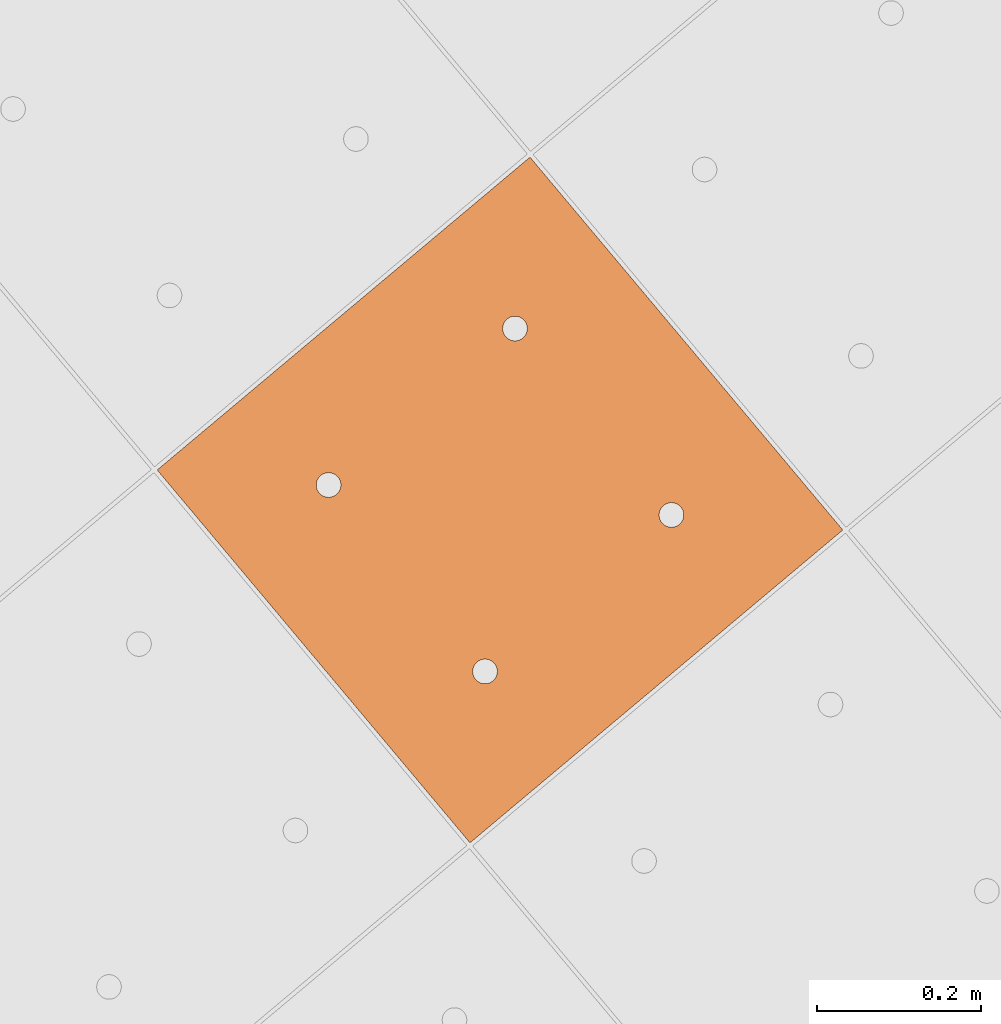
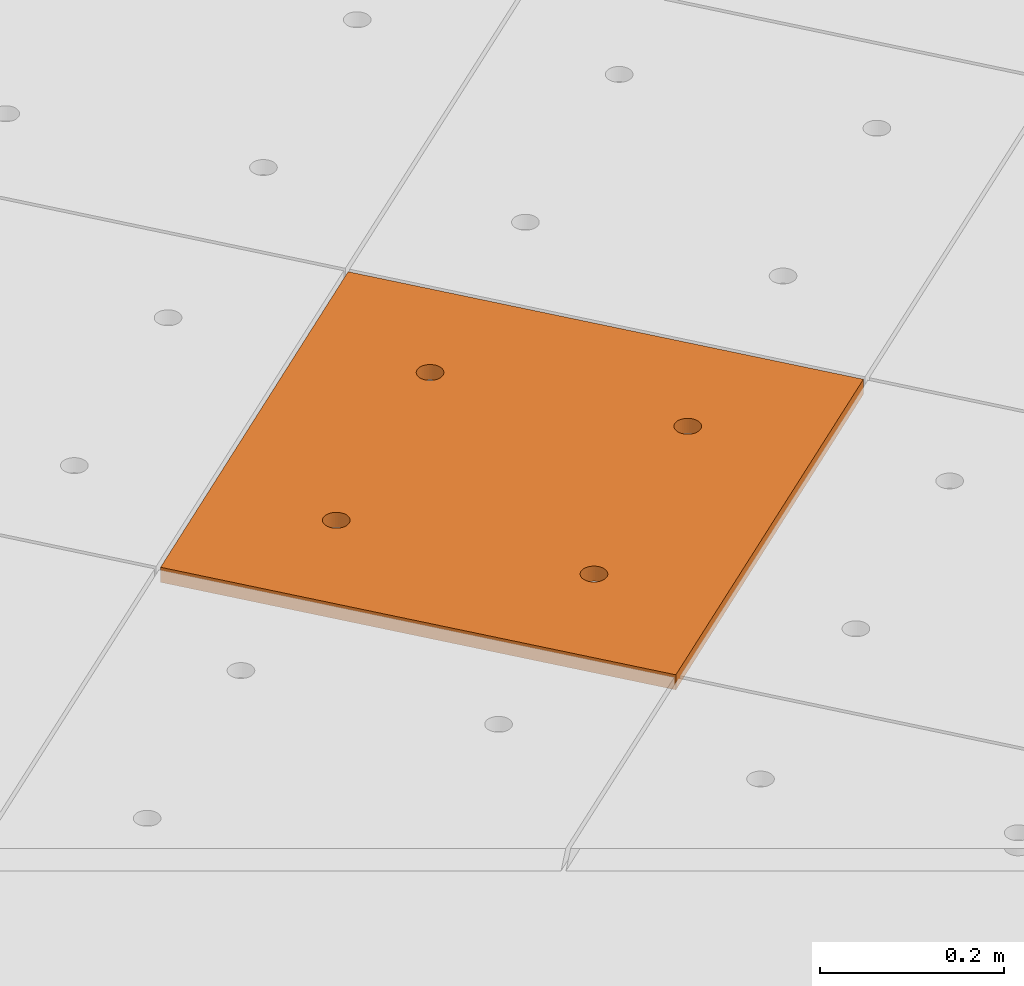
# One storey, part 141 of 338: 1 proxy, 1 element without a shape of its own.
"""IFC2X3 building model written with IfcOpenShell, lengths in millimetres."""

from ifc_helpers import new_model, entity, si_unit, converted_unit, derived_unit, money_unit, direction, frame, origin_with_axes, place, context, subcontext, project, spatial, faceted_brep, source, transform, mapped, material, type_object, type_shapes, element, aggregate, save


model = new_model("IFC2X3")

# Units and contexts
model_context = context("Model", 3, precision=0.01, world=origin_with_axes(), true_north=direction((0.0, 1.0)))
plan_context = context("Plan", 3, precision=0.01, world=origin_with_axes(), true_north=direction((0.0, 1.0)))
body_context = subcontext(model_context, "Body", "Model", "MODEL_VIEW")
ifc_project = project(units=[si_unit("LENGTHUNIT", "METRE", prefix="MILLI"), si_unit("AREAUNIT", "SQUARE_METRE"), si_unit("VOLUMEUNIT", "CUBIC_METRE"), converted_unit("PLANEANGLEUNIT", "DEGREE", entity("IfcPlaneAngleMeasure", 0.0174532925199), si_unit("PLANEANGLEUNIT", "RADIAN"), dimensions=[0, 0, 0, 0, 0, 0, 0]), money_unit("EUR"), converted_unit("TIMEUNIT", "Year", entity("IfcTimeMeasure", 31556926.0), si_unit("TIMEUNIT", "SECOND"), dimensions=[0, 0, 1, 0, 0, 0, 0]), si_unit("MASSUNIT", "GRAM", prefix="KILO"), si_unit("THERMODYNAMICTEMPERATUREUNIT", "DEGREE_CELSIUS"), si_unit("LUMINOUSINTENSITYUNIT", "LUMEN"), si_unit("ENERGYUNIT", "JOULE", prefix="MEGA"), derived_unit("THERMALCONDUCTANCEUNIT", [(si_unit("POWERUNIT", "WATT"), 1), (si_unit("LENGTHUNIT", "METRE"), -1), (si_unit("THERMODYNAMICTEMPERATUREUNIT", "KELVIN"), -1)]), derived_unit("SPECIFICHEATCAPACITYUNIT", [(si_unit("ENERGYUNIT", "JOULE"), 1), (si_unit("MASSUNIT", "GRAM", prefix="KILO"), -1), (si_unit("THERMODYNAMICTEMPERATUREUNIT", "KELVIN"), -1)]), derived_unit("MASSDENSITYUNIT", [(si_unit("MASSUNIT", "GRAM", prefix="KILO"), 1), (si_unit("VOLUMEUNIT", "CUBIC_METRE"), -1)])], contexts=[model_context, plan_context])

# Site, building, storey
site_placement = place(None, origin_with_axes())
site = spatial("IfcSite", under=ifc_project, at=site_placement, Name="Fortuinstraat Woensdrecht", CompositionType="ELEMENT")
building_placement = place(site_placement, origin_with_axes())
building = spatial("IfcBuilding", under=site, at=building_placement, Name="IKC Fortuna", CompositionType="ELEMENT")
storey_placement = place(building_placement, origin_with_axes())
storey = spatial("IfcBuildingStorey", under=building, at=storey_placement, Name="00 begane grond", CompositionType="ELEMENT", Elevation=0.0)

# Covering, proxy
covering_type = type_object("IfcCoveringType", Name="Curtain Wall Type", PredefinedType="CEILING")
covering_placement = place(storey_placement, frame((9775.85169731, -1002.28242867, 4660.0), z_axis=(0.0, 0.0, 1.0), x_axis=(1.0, 0.0, 0.0)))
covering = element("IfcCovering", 1, at=covering_placement, inside=storey, type_object=covering_type, Name="45_Plafondafwerking_P01", PredefinedType="CEILING")
ifc_material = material(Name="Gipsplaat")
building_element_proxy_type = type_object("IfcBuildingElementProxyType", Name="Main Panel 600 x 600 x 20", PredefinedType="NOTDEFINED")
shared_shape = source(origin_with_axes(), body_context, "Body", "Brep", [
    faceted_brep([(2.49999999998, 2.49999999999, -10.0), (300.0, 2.49999999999, -10.0), (300.0, 2.49999999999, 10.0), (2.49999999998, 2.49999999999, 10.0), (2.49999999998, 300.0, -10.0), (2.49999999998, 597.5, -10.0), (300.0, 597.5, -10.0), (597.5, 597.5, -10.0), (597.5, 300.0, -10.0), (597.5, 2.49999999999, -10.0), (166.25, 450.06232995, -10.0), (165.79423259, 452.64711538, -10.0), (164.896546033, 455.11348892, -10.0), (163.58421608, 457.38651108, -10.0), (161.897117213, 459.39711721, -10.0), (159.886511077, 461.08421608, -10.0), (157.613488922, 462.39654603, -10.0), (155.147115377, 463.29423259, -10.0), (152.562329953, 463.75, -10.0), (149.937670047, 463.75, -10.0), (147.352884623, 463.29423259, -10.0), (144.886511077, 462.39654603, -10.0), (142.613488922, 461.08421608, -10.0), (140.602882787, 459.39711721, -10.0), (138.91578392, 457.38651108, -10.0), (137.603453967, 455.11348892, -10.0), (136.705767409, 452.64711538, -10.0), (136.25, 450.06232995, -10.0), (136.25, 448.75, -10.0), (136.25, 447.43767005, -10.0), (136.705767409, 444.85288462, -10.0), (137.603453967, 442.38651108, -10.0), (138.91578392, 440.11348892, -10.0), (140.602882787, 438.10288279, -10.0), (142.613488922, 436.41578392, -10.0), (144.886511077, 435.10345397, -10.0), (147.352884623, 434.20576741, -10.0), (149.937670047, 433.75, -10.0), (152.562329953, 433.75, -10.0), (155.147115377, 434.20576741, -10.0), (157.613488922, 435.10345397, -10.0), (159.886511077, 436.41578392, -10.0), (161.897117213, 438.10288279, -10.0), (163.58421608, 440.11348892, -10.0), (164.896546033, 442.38651108, -10.0), (165.79423259, 444.85288462, -10.0), (166.25, 447.43767005, -10.0), (463.75, 450.06232995, -10.0), (463.29423259, 452.64711538, -10.0), (462.396546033, 455.11348892, -10.0), (461.08421608, 457.38651108, -10.0), (459.397117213, 459.39711721, -10.0), (457.386511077, 461.08421608, -10.0), (455.113488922, 462.39654603, -10.0), (452.647115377, 463.29423259, -10.0), (450.062329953, 463.75, -10.0), (447.437670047, 463.75, -10.0), (444.852884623, 463.29423259, -10.0), (442.386511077, 462.39654603, -10.0), (440.113488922, 461.08421608, -10.0), (438.102882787, 459.39711721, -10.0), (436.41578392, 457.38651108, -10.0), (435.103453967, 455.11348892, -10.0), (434.205767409, 452.64711538, -10.0), (433.75, 450.06232995, -10.0), (433.75, 448.75, -10.0), (433.75, 447.43767005, -10.0), (434.205767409, 444.85288462, -10.0), (435.103453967, 442.38651108, -10.0), (436.41578392, 440.11348892, -10.0), (438.102882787, 438.10288279, -10.0), (440.113488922, 436.41578392, -10.0), (442.386511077, 435.10345397, -10.0), (444.852884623, 434.20576741, -10.0), (447.437670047, 433.75, -10.0), (450.062329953, 433.75, -10.0), (452.647115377, 434.20576741, -10.0), (455.113488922, 435.10345397, -10.0), (457.386511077, 436.41578392, -10.0), (459.397117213, 438.10288279, -10.0), (461.08421608, 440.11348892, -10.0), (462.396546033, 442.38651108, -10.0), (463.29423259, 444.85288462, -10.0), (463.75, 447.43767005, -10.0), (463.75, 152.56232995, -10.0), (463.29423259, 155.14711538, -10.0), (462.396546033, 157.61348892, -10.0), (461.08421608, 159.88651108, -10.0), (459.397117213, 161.89711721, -10.0), (457.386511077, 163.58421608, -10.0), (455.113488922, 164.89654603, -10.0), (452.647115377, 165.79423259, -10.0), (450.062329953, 166.25, -10.0), (447.437670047, 166.25, -10.0), (444.852884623, 165.79423259, -10.0), (442.386511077, 164.89654603, -10.0), (440.113488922, 163.58421608, -10.0), (438.102882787, 161.89711721, -10.0), (436.41578392, 159.88651108, -10.0), (435.103453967, 157.61348892, -10.0), (434.205767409, 155.14711538, -10.0), (433.75, 152.56232995, -10.0), (433.75, 151.25, -10.0), (433.75, 149.93767005, -10.0), (434.205767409, 147.35288462, -10.0), (435.103453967, 144.88651108, -10.0), (436.41578392, 142.61348892, -10.0), (438.102882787, 140.60288279, -10.0), (440.113488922, 138.91578392, -10.0), (442.386511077, 137.60345397, -10.0), (444.852884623, 136.70576741, -10.0), (447.437670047, 136.25, -10.0), (450.062329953, 136.25, -10.0), (452.647115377, 136.70576741, -10.0), (455.113488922, 137.60345397, -10.0), (457.386511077, 138.91578392, -10.0), (459.397117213, 140.60288279, -10.0), (461.08421608, 142.61348892, -10.0), (462.396546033, 144.88651108, -10.0), (463.29423259, 147.35288462, -10.0), (463.75, 149.93767005, -10.0), (166.25, 152.56232995, -10.0), (165.79423259, 155.14711538, -10.0), (164.896546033, 157.61348892, -10.0), (163.58421608, 159.88651108, -10.0), (161.897117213, 161.89711721, -10.0), (159.886511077, 163.58421608, -10.0), (157.613488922, 164.89654603, -10.0), (155.147115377, 165.79423259, -10.0), (152.562329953, 166.25, -10.0), (149.937670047, 166.25, -10.0), (147.352884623, 165.79423259, -10.0), (144.886511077, 164.89654603, -10.0), (142.613488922, 163.58421608, -10.0), (140.602882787, 161.89711721, -10.0), (138.91578392, 159.88651108, -10.0), (137.603453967, 157.61348892, -10.0), (136.705767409, 155.14711538, -10.0), (136.25, 152.56232995, -10.0), (136.25, 151.25, -10.0), (136.25, 149.93767005, -10.0), (136.705767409, 147.35288462, -10.0), (137.603453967, 144.88651108, -10.0), (138.91578392, 142.61348892, -10.0), (140.602882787, 140.60288279, -10.0), (142.613488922, 138.91578392, -10.0), (144.886511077, 137.60345397, -10.0), (147.352884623, 136.70576741, -10.0), (149.937670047, 136.25, -10.0), (152.562329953, 136.25, -10.0), (155.147115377, 136.70576741, -10.0), (157.613488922, 137.60345397, -10.0), (159.886511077, 138.91578392, -10.0), (161.897117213, 140.60288279, -10.0), (163.58421608, 142.61348892, -10.0), (164.896546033, 144.88651108, -10.0), (165.79423259, 147.35288462, -10.0), (166.25, 149.93767005, -10.0), (597.5, 2.49999999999, 10.0), (597.5, 300.0, 10.0), (597.5, 597.5, 10.0), (300.0, 597.5, 10.0), (2.49999999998, 597.5, 10.0), (2.49999999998, 300.0, 10.0), (166.25, 450.06232995, 10.0), (166.25, 447.43767005, 10.0), (165.79423259, 444.85288462, 10.0), (164.896546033, 442.38651108, 10.0), (163.58421608, 440.11348892, 10.0), (161.897117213, 438.10288279, 10.0), (159.886511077, 436.41578392, 10.0), (157.613488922, 435.10345397, 10.0), (155.147115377, 434.20576741, 10.0), (152.562329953, 433.75, 10.0), (149.937670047, 433.75, 10.0), (147.352884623, 434.20576741, 10.0), (144.886511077, 435.10345397, 10.0), (142.613488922, 436.41578392, 10.0), (140.602882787, 438.10288279, 10.0), (138.91578392, 440.11348892, 10.0), (137.603453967, 442.38651108, 10.0), (136.705767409, 444.85288462, 10.0), (136.25, 447.43767005, 10.0), (136.25, 448.75, 10.0), (136.25, 450.06232995, 10.0), (136.705767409, 452.64711538, 10.0), (137.603453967, 455.11348892, 10.0), (138.91578392, 457.38651108, 10.0), (140.602882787, 459.39711721, 10.0), (142.613488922, 461.08421608, 10.0), (144.886511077, 462.39654603, 10.0), (147.352884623, 463.29423259, 10.0), (149.937670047, 463.75, 10.0), (152.562329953, 463.75, 10.0), (155.147115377, 463.29423259, 10.0), (157.613488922, 462.39654603, 10.0), (159.886511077, 461.08421608, 10.0), (161.897117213, 459.39711721, 10.0), (163.58421608, 457.38651108, 10.0), (164.896546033, 455.11348892, 10.0), (165.79423259, 452.64711538, 10.0), (463.75, 450.06232995, 10.0), (463.75, 447.43767005, 10.0), (463.29423259, 444.85288462, 10.0), (462.396546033, 442.38651108, 10.0), (461.08421608, 440.11348892, 10.0), (459.397117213, 438.10288279, 10.0), (457.386511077, 436.41578392, 10.0), (455.113488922, 435.10345397, 10.0), (452.647115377, 434.20576741, 10.0), (450.062329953, 433.75, 10.0), (447.437670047, 433.75, 10.0), (444.852884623, 434.20576741, 10.0), (442.386511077, 435.10345397, 10.0), (440.113488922, 436.41578392, 10.0), (438.102882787, 438.10288279, 10.0), (436.41578392, 440.11348892, 10.0), (435.103453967, 442.38651108, 10.0), (434.205767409, 444.85288462, 10.0), (433.75, 447.43767005, 10.0), (433.75, 448.75, 10.0), (433.75, 450.06232995, 10.0), (434.205767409, 452.64711538, 10.0), (435.103453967, 455.11348892, 10.0), (436.41578392, 457.38651108, 10.0), (438.102882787, 459.39711721, 10.0), (440.113488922, 461.08421608, 10.0), (442.386511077, 462.39654603, 10.0), (444.852884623, 463.29423259, 10.0), (447.437670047, 463.75, 10.0), (450.062329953, 463.75, 10.0), (452.647115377, 463.29423259, 10.0), (455.113488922, 462.39654603, 10.0), (457.386511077, 461.08421608, 10.0), (459.397117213, 459.39711721, 10.0), (461.08421608, 457.38651108, 10.0), (462.396546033, 455.11348892, 10.0), (463.29423259, 452.64711538, 10.0), (463.75, 152.56232995, 10.0), (463.75, 149.93767005, 10.0), (463.29423259, 147.35288462, 10.0), (462.396546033, 144.88651108, 10.0), (461.08421608, 142.61348892, 10.0), (459.397117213, 140.60288279, 10.0), (457.386511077, 138.91578392, 10.0), (455.113488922, 137.60345397, 10.0), (452.647115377, 136.70576741, 10.0), (450.062329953, 136.25, 10.0), (447.437670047, 136.25, 10.0), (444.852884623, 136.70576741, 10.0), (442.386511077, 137.60345397, 10.0), (440.113488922, 138.91578392, 10.0), (438.102882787, 140.60288279, 10.0), (436.41578392, 142.61348892, 10.0), (435.103453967, 144.88651108, 10.0), (434.205767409, 147.35288462, 10.0), (433.75, 149.93767005, 10.0), (433.75, 151.25, 10.0), (433.75, 152.56232995, 10.0), (434.205767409, 155.14711538, 10.0), (435.103453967, 157.61348892, 10.0), (436.41578392, 159.88651108, 10.0), (438.102882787, 161.89711721, 10.0), (440.113488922, 163.58421608, 10.0), (442.386511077, 164.89654603, 10.0), (444.852884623, 165.79423259, 10.0), (447.437670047, 166.25, 10.0), (450.062329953, 166.25, 10.0), (452.647115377, 165.79423259, 10.0), (455.113488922, 164.89654603, 10.0), (457.386511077, 163.58421608, 10.0), (459.397117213, 161.89711721, 10.0), (461.08421608, 159.88651108, 10.0), (462.396546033, 157.61348892, 10.0), (463.29423259, 155.14711538, 10.0), (166.25, 152.56232995, 10.0), (166.25, 149.93767005, 10.0), (165.79423259, 147.35288462, 10.0), (164.896546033, 144.88651108, 10.0), (163.58421608, 142.61348892, 10.0), (161.897117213, 140.60288279, 10.0), (159.886511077, 138.91578392, 10.0), (157.613488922, 137.60345397, 10.0), (155.147115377, 136.70576741, 10.0), (152.562329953, 136.25, 10.0), (149.937670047, 136.25, 10.0), (147.352884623, 136.70576741, 10.0), (144.886511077, 137.60345397, 10.0), (142.613488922, 138.91578392, 10.0), (140.602882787, 140.60288279, 10.0), (138.91578392, 142.61348892, 10.0), (137.603453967, 144.88651108, 10.0), (136.705767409, 147.35288462, 10.0), (136.25, 149.93767005, 10.0), (136.25, 151.25, 10.0), (136.25, 152.56232995, 10.0), (136.705767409, 155.14711538, 10.0), (137.603453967, 157.61348892, 10.0), (138.91578392, 159.88651108, 10.0), (140.602882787, 161.89711721, 10.0), (142.613488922, 163.58421608, 10.0), (144.886511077, 164.89654603, 10.0), (147.352884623, 165.79423259, 10.0), (149.937670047, 166.25, 10.0), (152.562329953, 166.25, 10.0), (155.147115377, 165.79423259, 10.0), (157.613488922, 164.89654603, 10.0), (159.886511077, 163.58421608, 10.0), (161.897117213, 161.89711721, 10.0), (163.58421608, 159.88651108, 10.0), (164.896546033, 157.61348892, 10.0), (165.79423259, 155.14711538, 10.0)], [[[0, 1, 2, 3]], [[0, 4, 5, 6, 7, 8, 9, 1], [10, 11, 12, 13, 14, 15, 16, 17, 18, 19, 20, 21, 22, 23, 24, 25, 26, 27, 28, 29, 30, 31, 32, 33, 34, 35, 36, 37, 38, 39, 40, 41, 42, 43, 44, 45, 46], [47, 48, 49, 50, 51, 52, 53, 54, 55, 56, 57, 58, 59, 60, 61, 62, 63, 64, 65, 66, 67, 68, 69, 70, 71, 72, 73, 74, 75, 76, 77, 78, 79, 80, 81, 82, 83], [84, 85, 86, 87, 88, 89, 90, 91, 92, 93, 94, 95, 96, 97, 98, 99, 100, 101, 102, 103, 104, 105, 106, 107, 108, 109, 110, 111, 112, 113, 114, 115, 116, 117, 118, 119, 120], [121, 122, 123, 124, 125, 126, 127, 128, 129, 130, 131, 132, 133, 134, 135, 136, 137, 138, 139, 140, 141, 142, 143, 144, 145, 146, 147, 148, 149, 150, 151, 152, 153, 154, 155, 156, 157]], [[1, 9, 158, 2]], [[3, 2, 158, 159, 160, 161, 162, 163], [164, 165, 166, 167, 168, 169, 170, 171, 172, 173, 174, 175, 176, 177, 178, 179, 180, 181, 182, 183, 184, 185, 186, 187, 188, 189, 190, 191, 192, 193, 194, 195, 196, 197, 198, 199, 200], [201, 202, 203, 204, 205, 206, 207, 208, 209, 210, 211, 212, 213, 214, 215, 216, 217, 218, 219, 220, 221, 222, 223, 224, 225, 226, 227, 228, 229, 230, 231, 232, 233, 234, 235, 236, 237], [238, 239, 240, 241, 242, 243, 244, 245, 246, 247, 248, 249, 250, 251, 252, 253, 254, 255, 256, 257, 258, 259, 260, 261, 262, 263, 264, 265, 266, 267, 268, 269, 270, 271, 272, 273, 274], [275, 276, 277, 278, 279, 280, 281, 282, 283, 284, 285, 286, 287, 288, 289, 290, 291, 292, 293, 294, 295, 296, 297, 298, 299, 300, 301, 302, 303, 304, 305, 306, 307, 308, 309, 310, 311]], [[4, 0, 3, 163]], [[5, 4, 163, 162]], [[6, 5, 162, 161]], [[7, 6, 161, 160]], [[8, 7, 160, 159]], [[9, 8, 159, 158]], [[11, 10, 164, 200]], [[12, 11, 200, 199]], [[13, 12, 199, 198]], [[14, 13, 198, 197]], [[15, 14, 197, 196]], [[16, 15, 196, 195]], [[17, 16, 195, 194]], [[18, 17, 194, 193]], [[19, 18, 193, 192]], [[20, 19, 192, 191]], [[21, 20, 191, 190]], [[22, 21, 190, 189]], [[23, 22, 189, 188]], [[24, 23, 188, 187]], [[25, 24, 187, 186]], [[26, 25, 186, 185]], [[27, 26, 185, 184]], [[28, 27, 184, 183]], [[29, 28, 183, 182]], [[30, 29, 182, 181]], [[31, 30, 181, 180]], [[32, 31, 180, 179]], [[33, 32, 179, 178]], [[34, 33, 178, 177]], [[35, 34, 177, 176]], [[36, 35, 176, 175]], [[37, 36, 175, 174]], [[38, 37, 174, 173]], [[39, 38, 173, 172]], [[40, 39, 172, 171]], [[41, 40, 171, 170]], [[42, 41, 170, 169]], [[43, 42, 169, 168]], [[44, 43, 168, 167]], [[45, 44, 167, 166]], [[46, 45, 166, 165]], [[10, 46, 165, 164]], [[48, 47, 201, 237]], [[49, 48, 237, 236]], [[50, 49, 236, 235]], [[51, 50, 235, 234]], [[52, 51, 234, 233]], [[53, 52, 233, 232]], [[54, 53, 232, 231]], [[55, 54, 231, 230]], [[56, 55, 230, 229]], [[57, 56, 229, 228]], [[58, 57, 228, 227]], [[59, 58, 227, 226]], [[60, 59, 226, 225]], [[61, 60, 225, 224]], [[62, 61, 224, 223]], [[63, 62, 223, 222]], [[64, 63, 222, 221]], [[65, 64, 221, 220]], [[66, 65, 220, 219]], [[67, 66, 219, 218]], [[68, 67, 218, 217]], [[69, 68, 217, 216]], [[70, 69, 216, 215]], [[71, 70, 215, 214]], [[72, 71, 214, 213]], [[73, 72, 213, 212]], [[74, 73, 212, 211]], [[75, 74, 211, 210]], [[76, 75, 210, 209]], [[77, 76, 209, 208]], [[78, 77, 208, 207]], [[79, 78, 207, 206]], [[80, 79, 206, 205]], [[81, 80, 205, 204]], [[82, 81, 204, 203]], [[83, 82, 203, 202]], [[47, 83, 202, 201]], [[85, 84, 238, 274]], [[86, 85, 274, 273]], [[87, 86, 273, 272]], [[88, 87, 272, 271]], [[89, 88, 271, 270]], [[90, 89, 270, 269]], [[91, 90, 269, 268]], [[92, 91, 268, 267]], [[93, 92, 267, 266]], [[94, 93, 266, 265]], [[95, 94, 265, 264]], [[96, 95, 264, 263]], [[97, 96, 263, 262]], [[98, 97, 262, 261]], [[99, 98, 261, 260]], [[100, 99, 260, 259]], [[101, 100, 259, 258]], [[102, 101, 258, 257]], [[103, 102, 257, 256]], [[104, 103, 256, 255]], [[105, 104, 255, 254]], [[106, 105, 254, 253]], [[107, 106, 253, 252]], [[108, 107, 252, 251]], [[109, 108, 251, 250]], [[110, 109, 250, 249]], [[111, 110, 249, 248]], [[112, 111, 248, 247]], [[113, 112, 247, 246]], [[114, 113, 246, 245]], [[115, 114, 245, 244]], [[116, 115, 244, 243]], [[117, 116, 243, 242]], [[118, 117, 242, 241]], [[119, 118, 241, 240]], [[120, 119, 240, 239]], [[84, 120, 239, 238]], [[122, 121, 275, 311]], [[123, 122, 311, 310]], [[124, 123, 310, 309]], [[125, 124, 309, 308]], [[126, 125, 308, 307]], [[127, 126, 307, 306]], [[128, 127, 306, 305]], [[129, 128, 305, 304]], [[130, 129, 304, 303]], [[131, 130, 303, 302]], [[132, 131, 302, 301]], [[133, 132, 301, 300]], [[134, 133, 300, 299]], [[135, 134, 299, 298]], [[136, 135, 298, 297]], [[137, 136, 297, 296]], [[138, 137, 296, 295]], [[139, 138, 295, 294]], [[140, 139, 294, 293]], [[141, 140, 293, 292]], [[142, 141, 292, 291]], [[143, 142, 291, 290]], [[144, 143, 290, 289]], [[145, 144, 289, 288]], [[146, 145, 288, 287]], [[147, 146, 287, 286]], [[148, 147, 286, 285]], [[149, 148, 285, 284]], [[150, 149, 284, 283]], [[151, 150, 283, 282]], [[152, 151, 282, 281]], [[153, 152, 281, 280]], [[154, 153, 280, 279]], [[155, 154, 279, 278]], [[156, 155, 278, 277]], [[157, 156, 277, 276]], [[121, 157, 276, 275]]]),
])
type_shapes(building_element_proxy_type, [shared_shape])
proxy_placement = place(covering_placement, frame((-6762.39401802, 591.631100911, 1.7674750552e-10), z_axis=(0.0, 0.0, 1.0), x_axis=(1.0, 0.0, 0.0)))
proxy = element("IfcBuildingElementProxy", 2, at=proxy_placement, type_object=building_element_proxy_type, material=ifc_material, Name="__600x616 Rockfon Krios", context=body_context, shape_type="MappedRepresentation", body=[
    mapped(shared_shape, transform((36.9769427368, 422.649625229, 0.0), x_axis=(-0.766044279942, -0.642787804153, 0.0), y_axis=(0.642787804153, -0.766044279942, 0.0), z_axis=(0.0, 0.0, 1.0))),
])
aggregate(covering, [proxy])

save(model, "model.ifc")
